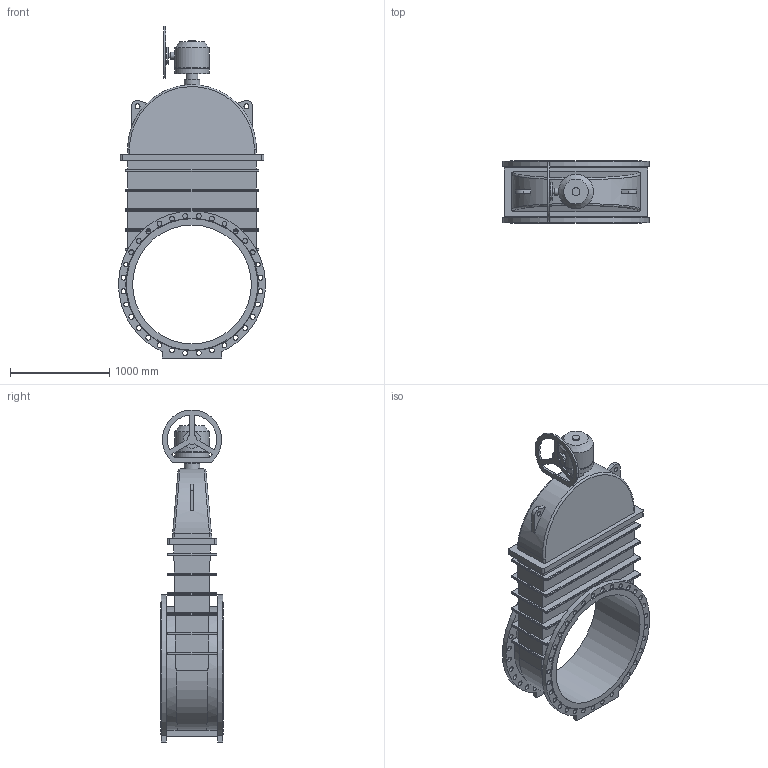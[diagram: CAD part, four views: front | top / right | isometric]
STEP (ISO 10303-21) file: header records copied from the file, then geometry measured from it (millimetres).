
FILE_DESCRIPTION(('STEP AP203'), '1');
FILE_NAME('Çàäâèæêà 47GV.Z DN1200 PN16 + ðåäóêòîð ñ ìàõîâèêîì', '', ('UNSPECIFIED'), ('UNSPECIFIED'), 'ASCON STEP Converter 1.6', 'ASCON Math Kernel', '');
FILE_SCHEMA(('CONFIG_CONTROL_DESIGN'));
Length unit declared in the file: millimetre
Bounding box: 1483.95 x 630 x 3352.5 mm (x, y, z)
Volume: 839631890.4 mm3; surface area: 15388638.2 mm2
Topology: 1 solids, 1 shells, 369 faces, 935 edges, 591 vertices
Faces by surface type: cylinder 178, plane 140, bspline 48, cone 3
Full cylindrical faces by diameter (mm): 30 x1, 49 x64, 50 x3, 70 x1, 80 x1, 100 x1, 120 x1, 160 x1, 175 x1, 330 x1, 350 x2, 1200 x1
Entity records: 18855 total; most frequent: CARTESIAN_POINT 7370, ORIENTED_EDGE 1708, DIRECTION 1635, EDGE_CURVE 854, AXIS2_PLACEMENT_3D 615, EDGE_LOOP 613, VERTEX_POINT 591, FACE_BOUND 452
